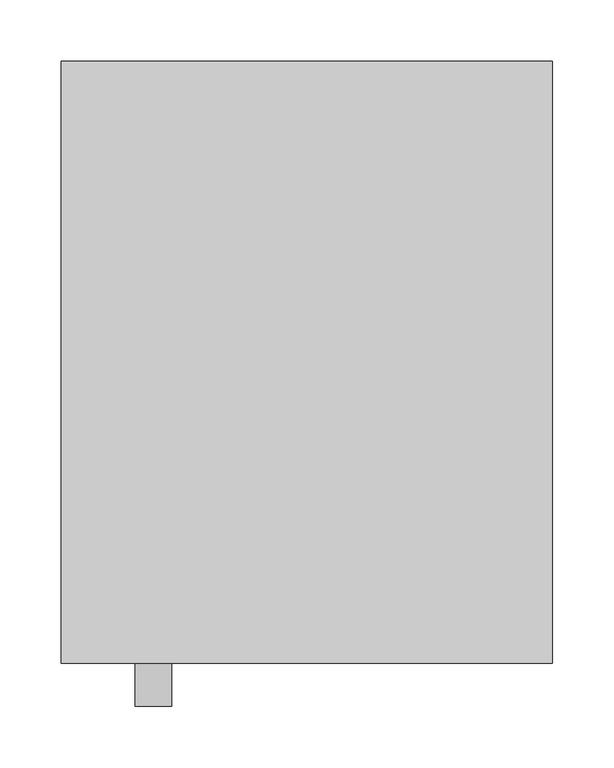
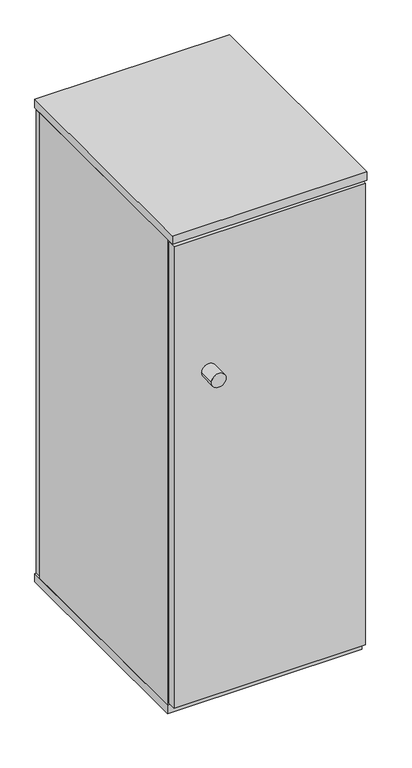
"""IFC4 building model written with IfcOpenShell, lengths in millimetres: furniture geometry, Grid Lockers - 1 Door Complimentary : GRID SINGLE DOOR CABINET 800mm(w) x 490mm(d) x 1058mm(h)."""

import ifcopenshell
import ifcopenshell.guid

model = None  # the IFC model being written
_history = None  # IfcOwnerHistory: only IFC2X3 demands one
_inside = {}  # id of a spatial element -> (the spatial element, [elements in it])
_under = {}  # id of a project, library or spatial element -> (it, [spatial elements below it])
_declared = {}  # id of a project -> (the project, [libraries it declares])
_typed = {}  # id of a type object -> (the type object, [elements of that type])
_made_of = {}  # id of a material, layer set ... -> (it, [elements and type objects made of it])


def new_model(schema):
    """Start an empty IFC model of exactly this schema.

    Asked for "IFC4X3", IfcOpenShell would pick the latest addendum, in which some entities
    have other attributes; the version numbers below select the first issue.
    IFC2X3 requires an IfcOwnerHistory on every rooted entity: one is made here for all.
    """
    global model, _history
    if schema == "IFC4X3":
        model = ifcopenshell.file(schema_version=(4, 3, 0, 0))
    else:
        model = ifcopenshell.file(schema=schema)
    _inside.clear()
    _under.clear()
    _declared.clear()
    _typed.clear()
    _made_of.clear()
    _history = None
    if model.schema == "IFC2X3":
        org = make("IfcOrganization", Name="unknown")
        user = make(
            "IfcPersonAndOrganization",
            ThePerson=make("IfcPerson", FamilyName="unknown"),
            TheOrganization=org,
        )
        app = make(
            "IfcApplication",
            ApplicationDeveloper=org,
            Version="unknown",
            ApplicationFullName="unknown",
            ApplicationIdentifier="unknown",
        )
        _history = make(
            "IfcOwnerHistory",
            OwningUser=user,
            OwningApplication=app,
            ChangeAction="ADDED",
            CreationDate=0,
        )
    return model


def make(cls, **values):
    """One entity of the class cls with the attributes given. An attribute that is None is left unset."""
    return model.create_entity(
        cls, **{name: value for name, value in values.items() if value is not None}
    )


def rooted(cls, **values):
    """An entity with a GlobalId (a new one), such as an element, a storey or a relation."""
    return make(cls, GlobalId=ifcopenshell.guid.new(), OwnerHistory=_history, **values)


def si_unit(unit_type, name, prefix=None):
    """IfcSIUnit, for example si_unit("LENGTHUNIT", "METRE", prefix="MILLI")."""
    return make("IfcSIUnit", UnitType=unit_type, Prefix=prefix, Name=name)


def assignment(units):
    """IfcUnitAssignment: the units of a project."""
    return None if units is None else make("IfcUnitAssignment", Units=units)


def point(xyz):
    """IfcCartesianPoint."""
    return None if xyz is None else make("IfcCartesianPoint", Coordinates=xyz)


def direction(xyz):
    """IfcDirection."""
    return None if xyz is None else make("IfcDirection", DirectionRatios=xyz)


def frame(location, z_axis=None, x_axis=None):
    """IfcAxis2Placement3D, a coordinate frame: its origin and axes. An axis left out is left unset."""
    return make(
        "IfcAxis2Placement3D",
        Location=point(location),
        Axis=direction(z_axis),
        RefDirection=direction(x_axis),
    )


def frame_2d(location, x_axis=None):
    """IfcAxis2Placement2D, a coordinate frame in the plane: its origin and x axis."""
    return make(
        "IfcAxis2Placement2D", Location=point(location), RefDirection=direction(x_axis)
    )


def origin():
    """The frame at (0, 0, 0) with its axes left unset."""
    return frame((0.0, 0.0, 0.0))


def origin_with_axes():
    """The frame at (0, 0, 0) with the z axis (0, 0, 1) and the x axis (1, 0, 0) written out."""
    return frame((0.0, 0.0, 0.0), z_axis=(0.0, 0.0, 1.0), x_axis=(1.0, 0.0, 0.0))


def place(relative_to, where):
    """IfcLocalPlacement: puts the frame where relative to a parent placement (None: the world)."""
    return make(
        "IfcLocalPlacement", PlacementRelTo=relative_to, RelativePlacement=where
    )


def context(
    kind, dimensions, precision=None, world=None, true_north=None, identifier=None
):
    """IfcGeometricRepresentationContext, for example the 3D "Model" context."""
    return make(
        "IfcGeometricRepresentationContext",
        ContextIdentifier=identifier,
        ContextType=kind,
        CoordinateSpaceDimension=dimensions,
        Precision=precision,
        WorldCoordinateSystem=world,
        TrueNorth=true_north,
    )


def project(units=None, contexts=None):
    """IfcProject with its units and contexts."""
    return rooted(
        "IfcProject",
        Name="project",
        RepresentationContexts=contexts,
        UnitsInContext=assignment(units),
    )


def spatial(cls, under=None, at=None, **own):
    """A site, building, storey or space (cls), placed at a placement, below another one or the project."""
    s = rooted(cls, ObjectPlacement=at, **own)
    if under is not None:
        _under.setdefault(under.id(), (under, []))[1].append(s)
    return s


def polyline(points):
    """IfcPolyline through the points."""
    return make("IfcPolyline", Points=[point(p) for p in points])


def circle_curve(where, radius):
    """IfcCircle in the frame where."""
    return make("IfcCircle", Position=where, Radius=radius)


def trimmed(basis, trim1, trim2, sense, master):
    """IfcTrimmedCurve: the piece of a basis curve between two trims."""
    return make(
        "IfcTrimmedCurve",
        BasisCurve=basis,
        Trim1=trim1,
        Trim2=trim2,
        SenseAgreement=sense,
        MasterRepresentation=master,
    )


def segment(curve, same_sense, transition):
    """IfcCompositeCurveSegment."""
    return make(
        "IfcCompositeCurveSegment",
        Transition=transition,
        SameSense=same_sense,
        ParentCurve=curve,
    )


def composite_curve(segments, self_intersect=None):
    """IfcCompositeCurve: segments joined end to end."""
    return make("IfcCompositeCurve", Segments=segments, SelfIntersect=self_intersect)


def outline(outer, holes=None, kind="AREA"):
    """IfcArbitraryClosedProfileDef: a profile drawn as a closed curve; with holes, ...WithVoids."""
    if holes is None:
        return make("IfcArbitraryClosedProfileDef", ProfileType=kind, OuterCurve=outer)
    return make(
        "IfcArbitraryProfileDefWithVoids",
        ProfileType=kind,
        OuterCurve=outer,
        InnerCurves=holes,
    )


def extrude(swept, where, along, depth):
    """IfcExtrudedAreaSolid: the profile swept, set in the frame where, extruded along a direction by depth."""
    return make(
        "IfcExtrudedAreaSolid",
        SweptArea=swept,
        Position=where,
        ExtrudedDirection=direction(along),
        Depth=depth,
    )


def shape(context_of_items, identifier, shape_type, items):
    """IfcShapeRepresentation: the items that make up one representation, for example the "Body"."""
    return make(
        "IfcShapeRepresentation",
        ContextOfItems=context_of_items,
        RepresentationIdentifier=identifier,
        RepresentationType=shape_type,
        Items=items,
    )


def source(mapping_origin, context_of_items, identifier, shape_type, items):
    """IfcRepresentationMap: a shape defined once, which mapped items show again and again."""
    return make(
        "IfcRepresentationMap",
        MappingOrigin=mapping_origin,
        MappedRepresentation=shape(context_of_items, identifier, shape_type, items),
    )


def transform(
    local_origin,
    x_axis=None,
    y_axis=None,
    z_axis=None,
    scale=None,
    scale2=None,
    scale3=None,
    uniform=True,
):
    """IfcCartesianTransformationOperator3D, or its non-uniform kind. x_axis, y_axis, z_axis: its Axis1, 2, 3."""
    if uniform:
        return make(
            "IfcCartesianTransformationOperator3D",
            Axis1=direction(x_axis),
            Axis2=direction(y_axis),
            LocalOrigin=point(local_origin),
            Scale=scale,
            Axis3=direction(z_axis),
        )
    return make(
        "IfcCartesianTransformationOperator3DnonUniform",
        Axis1=direction(x_axis),
        Axis2=direction(y_axis),
        LocalOrigin=point(local_origin),
        Scale=scale,
        Axis3=direction(z_axis),
        Scale2=scale2,
        Scale3=scale3,
    )


def mapped(mapping_source, mapping_target):
    """IfcMappedItem: shows the shape of a source again, moved by a transform."""
    return make(
        "IfcMappedItem", MappingSource=mapping_source, MappingTarget=mapping_target
    )


def made_of(thing, what):
    """Note that an element or type object is made of a material, layer set ...; save() writes the relation."""
    if what is not None:
        _made_of.setdefault(what.id(), (what, []))[1].append(thing)
    return thing


def element(
    cls,
    number,
    at=None,
    inside=None,
    cuts=None,
    type_object=None,
    material=None,
    context=None,
    identifier="Body",
    shape_type=None,
    held_by="IfcProductDefinitionShape",
    body=None,
    shapes=None,
    **own,
):
    """One element of the class cls, such as IfcWall. Its Tag is "e" and its number.

    at: its placement. inside: the storey or other place that contains it. cuts: it is an
    opening in that element (IfcRelVoidsElement). A single representation is given by context,
    identifier, shape_type and body (its items); several are given by shapes. held_by: the class
    of the entity that holds the representations. save() writes the other relations.
    """
    e = rooted(cls, Tag="e%d" % number, ObjectPlacement=at, **own)
    if body is not None:
        shapes = [shape(context, identifier, shape_type, body)]
    if shapes is not None:
        e.Representation = make(held_by, Representations=shapes)
    if inside is not None:
        _inside.setdefault(inside.id(), (inside, []))[1].append(e)
    if cuts is not None:
        rooted(
            "IfcRelVoidsElement", RelatingBuildingElement=cuts, RelatedOpeningElement=e
        )
    if type_object is not None:
        _typed.setdefault(type_object.id(), (type_object, []))[1].append(e)
    return made_of(e, material)


def aggregate(whole, parts):
    """IfcRelAggregates: a whole, such as a stair, and the parts it consists of."""
    return rooted("IfcRelAggregates", RelatingObject=whole, RelatedObjects=parts)


def save(model, path):
    """Write the relations noted so far, then the file.

    IfcRelAggregates (storeys below a building ...), IfcRelContainedInSpatialStructure (elements
    in a storey), IfcRelDefinesByType, IfcRelAssociatesMaterial and IfcRelDeclares: one each for
    every whole, place, type object, material and project.
    """
    for whole, parts in _under.values():
        aggregate(whole, parts)
    for where, things in _inside.values():
        rooted(
            "IfcRelContainedInSpatialStructure",
            RelatedElements=things,
            RelatingStructure=where,
        )
    for kind, things in _typed.values():
        rooted("IfcRelDefinesByType", RelatedObjects=things, RelatingType=kind)
    for what, things in _made_of.values():
        rooted("IfcRelAssociatesMaterial", RelatedObjects=things, RelatingMaterial=what)
    for by, libraries in _declared.values():
        rooted("IfcRelDeclares", RelatingContext=by, RelatedDefinitions=libraries)
    model.write(path)


def furniture_9273fa20(model_context):
    return source(origin(), model_context, "Body", "SweptSolid", [
        extrude(outline(composite_curve([segment(trimmed(circle_curve(frame_2d((350.0, -50.0)), 15.0), [point((335.0, -50.0))], [point((365.0, -50.0))], False, "CARTESIAN"), True, "CONTINUOUS"), segment(trimmed(circle_curve(frame_2d((350.0, -50.0)), 15.0), [point((365.0, -50.0))], [point((335.0, -50.0))], False, "CARTESIAN"), True, "CONTINUOUS")], self_intersect=False)), origin_with_axes(), (0.0, 0.0, 1.0), 10.0),
        extrude(outline(composite_curve([segment(trimmed(circle_curve(frame_2d((50.0, -50.0)), 15.0), [point((35.0, -50.0))], [point((65.0, -50.0))], False, "CARTESIAN"), True, "CONTINUOUS"), segment(trimmed(circle_curve(frame_2d((50.0, -50.0)), 15.0), [point((65.0, -50.0))], [point((35.0, -50.0))], False, "CARTESIAN"), True, "CONTINUOUS")], self_intersect=False)), origin_with_axes(), (0.0, 0.0, 1.0), 10.0),
        extrude(outline(composite_curve([segment(trimmed(circle_curve(frame_2d((50.0, -440.0)), 15.0), [point((35.0, -440.0))], [point((65.0, -440.0))], False, "CARTESIAN"), True, "CONTINUOUS"), segment(trimmed(circle_curve(frame_2d((50.0, -440.0)), 15.0), [point((65.0, -440.0))], [point((35.0, -440.0))], False, "CARTESIAN"), True, "CONTINUOUS")], self_intersect=False)), origin_with_axes(), (0.0, 0.0, 1.0), 10.0),
        extrude(outline(composite_curve([segment(trimmed(circle_curve(frame_2d((350.0, -440.0)), 15.0), [point((335.0, -440.0))], [point((365.0, -440.0))], False, "CARTESIAN"), True, "CONTINUOUS"), segment(trimmed(circle_curve(frame_2d((350.0, -440.0)), 15.0), [point((365.0, -440.0))], [point((335.0, -440.0))], False, "CARTESIAN"), True, "CONTINUOUS")], self_intersect=False)), origin_with_axes(), (0.0, 0.0, 1.0), 10.0),
        extrude(outline(polyline([(400.0, -472.0), (0.0, -472.0), (0.0, 0.0), (400.0, 0.0), (400.0, -472.0)])), frame((0.0, 0.0, 10.0), z_axis=(0.0, 0.0, 1.0), x_axis=(1.0, 0.0, 0.0)), (0.0, 0.0, 1.0), 18.0),
        extrude(outline(polyline([(400.0, -490.0), (0.0, -490.0), (0.0, 0.0), (400.0, 0.0), (400.0, -490.0)])), frame((0.0, 0.0, 1040.0), z_axis=(0.0, 0.0, 1.0), x_axis=(1.0, 0.0, 0.0)), (0.0, 0.0, 1.0), 18.0),
        extrude(outline(composite_curve([segment(trimmed(circle_curve(frame_2d((740.0, 75.0)), 15.0), [point((740.0, 60.0))], [point((740.0, 90.0))], False, "CARTESIAN"), True, "CONTINUOUS"), segment(trimmed(circle_curve(frame_2d((740.0, 75.0)), 15.0), [point((740.0, 90.0))], [point((740.0, 60.0))], False, "CARTESIAN"), True, "CONTINUOUS")], self_intersect=False)), frame((0.0, -525.0, 0.0), z_axis=(0.0, 1.0, 0.0), x_axis=(0.0, 0.0, 1.0)), (0.0, 0.0, 1.0), 35.0),
        extrude(outline(polyline([(1040.0, 400.0), (1040.0, 0.0), (28.0, 0.0), (28.0, 3.0), (1015.0, 3.0), (1015.0, 397.0), (28.0, 397.0), (28.0, 400.0), (1040.0, 400.0)])), frame((0.0, -472.0, 0.0), z_axis=(0.0, 1.0, 0.0), x_axis=(0.0, 0.0, 1.0)), (0.0, 0.0, 1.0), 454.0),
        extrude(outline(polyline([(397.0, -490.0), (3.0, -490.0), (3.0, -472.0), (397.0, -472.0), (397.0, -490.0)])), frame((0.0, 0.0, 32.0), z_axis=(0.0, 0.0, 1.0), x_axis=(1.0, 0.0, 0.0)), (0.0, 0.0, 1.0), 1002.0),
        extrude(outline(polyline([(397.0, 0.0), (397.0, -18.0), (3.0, -18.0), (3.0, 0.0), (397.0, 0.0)])), frame((0.0, 0.0, 18.0), z_axis=(0.0, 0.0, 1.0), x_axis=(1.0, 0.0, 0.0)), (0.0, 0.0, 1.0), 1016.0),
    ])


if __name__ == "__main__":
    model = new_model("IFC4")
    model_context = context("Model", 3, world=origin())
    ifc_project = project(units=[si_unit("LENGTHUNIT", "METRE", prefix="MILLI")], contexts=[model_context])
    site = spatial("IfcSite", under=ifc_project)
    building = spatial("IfcBuilding", under=site)
    placement = place(None, origin())
    furniture_shape = furniture_9273fa20(model_context)
    element("IfcFurniture", 1, ObjectType="Grid Lockers - 1 Door Complimentary : GRID SINGLE DOOR CABINET 800mm(w) x 490mm(d) x 1058mm(h)", at=placement, inside=building, context=model_context, shape_type="MappedRepresentation", body=[
        mapped(furniture_shape, transform((0.0, 0.0, 0.0), x_axis=(1.0, 0.0, 0.0), y_axis=(0.0, 1.0, 0.0), z_axis=(0.0, 0.0, 1.0))),
    ])
    save(model, "model.ifc")
